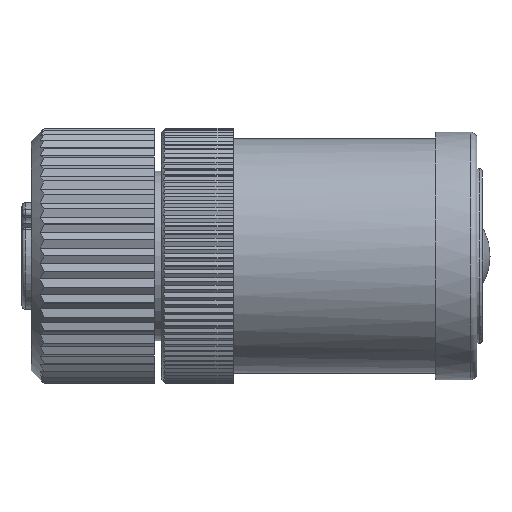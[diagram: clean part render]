
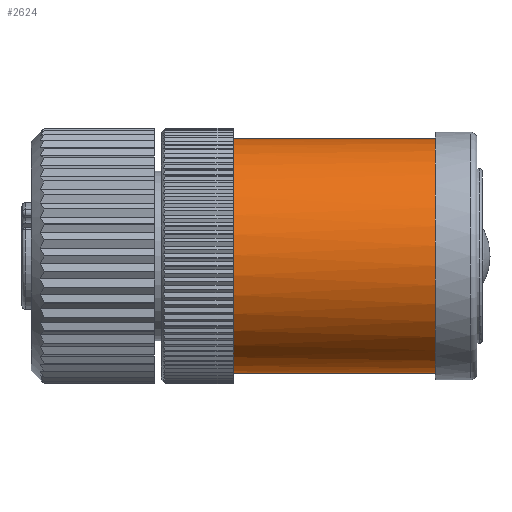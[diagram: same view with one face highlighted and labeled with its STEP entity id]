
A CAD part, top view. The second image highlights one B-rep face of the part: STEP entity #2624.
In plain terms, the highlighted cylindrical face has radius 9 mm (diameter 18 mm), a full revolution.
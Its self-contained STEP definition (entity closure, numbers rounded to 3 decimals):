
#182=CYLINDRICAL_SURFACE('',#10981,9.);
#353=FACE_BOUND('',#4070,.T.);
#354=FACE_BOUND('',#4071,.T.);
#529=B_SPLINE_CURVE_WITH_KNOTS('',3,(#15892,#15893,#15894,#15895,#15896,
#15897,#15898,#15899,#15900,#15901,#15902,#15903,#15904,#15905,#15906,#15907,
#15908,#15909,#15910,#15911,#15912,#15913),.UNSPECIFIED.,.F.,.F.,(4,2,2,
2,2,2,2,2,2,2,4),(0.,0.125,0.188,0.25,0.375,0.5,0.625,0.75,0.813,0.875,
1.),.UNSPECIFIED.);
#2624=ADVANCED_FACE('',(#353,#354),#182,.T.);
#4070=EDGE_LOOP('',(#5573));
#4071=EDGE_LOOP('',(#5574,#5575));
#5573=ORIENTED_EDGE('',*,*,#9218,.T.);
#5574=ORIENTED_EDGE('',*,*,#9217,.F.);
#5575=ORIENTED_EDGE('',*,*,#9209,.T.);
#7973=VERTEX_POINT('',#15914);
#7974=VERTEX_POINT('',#15915);
#7978=VERTEX_POINT('',#15948);
#9209=EDGE_CURVE('',#7973,#7974,#529,.T.);
#9217=EDGE_CURVE('',#7973,#7974,#10373,.T.);
#9218=EDGE_CURVE('',#7978,#7978,#10374,.T.);
#10373=CIRCLE('',#10978,9.);
#10374=CIRCLE('',#10980,9.);
#10978=AXIS2_PLACEMENT_3D('',#15945,#12589,#12590);
#10980=AXIS2_PLACEMENT_3D('',#15947,#12593,#12594);
#10981=AXIS2_PLACEMENT_3D('',#15949,#12595,#12596);
#12589=DIRECTION('',(1.,0.,0.));
#12590=DIRECTION('',(0.,0.,-1.));
#12593=DIRECTION('',(1.,0.,0.));
#12594=DIRECTION('',(0.,0.,-1.));
#12595=DIRECTION('',(1.,0.,0.));
#12596=DIRECTION('',(0.,0.,1.));
#15892=CARTESIAN_POINT('',(18.8,4.417,-7.842));
#15893=CARTESIAN_POINT('',(17.904,5.686,-7.127));
#15894=CARTESIAN_POINT('',(16.746,6.587,-6.197));
#15895=CARTESIAN_POINT('',(14.579,7.396,-5.148));
#15896=CARTESIAN_POINT('',(13.753,7.567,-4.872));
#15897=CARTESIAN_POINT('',(12.056,7.592,-4.833));
#15898=CARTESIAN_POINT('',(11.224,7.446,-5.073));
#15899=CARTESIAN_POINT('',(9.011,6.688,-6.081));
#15900=CARTESIAN_POINT('',(7.82,5.791,-7.033));
#15901=CARTESIAN_POINT('',(6.007,3.356,-8.47));
#15902=CARTESIAN_POINT('',(5.405,1.709,-8.996));
#15903=CARTESIAN_POINT('',(5.395,-1.665,-9.004));
#15904=CARTESIAN_POINT('',(5.986,-3.319,-8.488));
#15905=CARTESIAN_POINT('',(7.814,-5.791,-7.037));
#15906=CARTESIAN_POINT('',(8.992,-6.677,-6.094));
#15907=CARTESIAN_POINT('',(11.205,-7.442,-5.08));
#15908=CARTESIAN_POINT('',(12.049,-7.591,-4.835));
#15909=CARTESIAN_POINT('',(13.735,-7.569,-4.87));
#15910=CARTESIAN_POINT('',(14.559,-7.401,-5.14));
#15911=CARTESIAN_POINT('',(16.745,-6.59,-6.193));
#15912=CARTESIAN_POINT('',(17.906,-5.684,-7.128));
#15913=CARTESIAN_POINT('',(18.8,-4.417,-7.842));
#15914=CARTESIAN_POINT('',(18.8,4.417,-7.842));
#15915=CARTESIAN_POINT('',(18.8,-4.417,-7.842));
#15945=CARTESIAN_POINT('',(18.8,0.,0.));
#15947=CARTESIAN_POINT('',(3.3,0.,0.));
#15948=CARTESIAN_POINT('',(3.3,0.,-9.));
#15949=CARTESIAN_POINT('',(0.,0.,0.));
